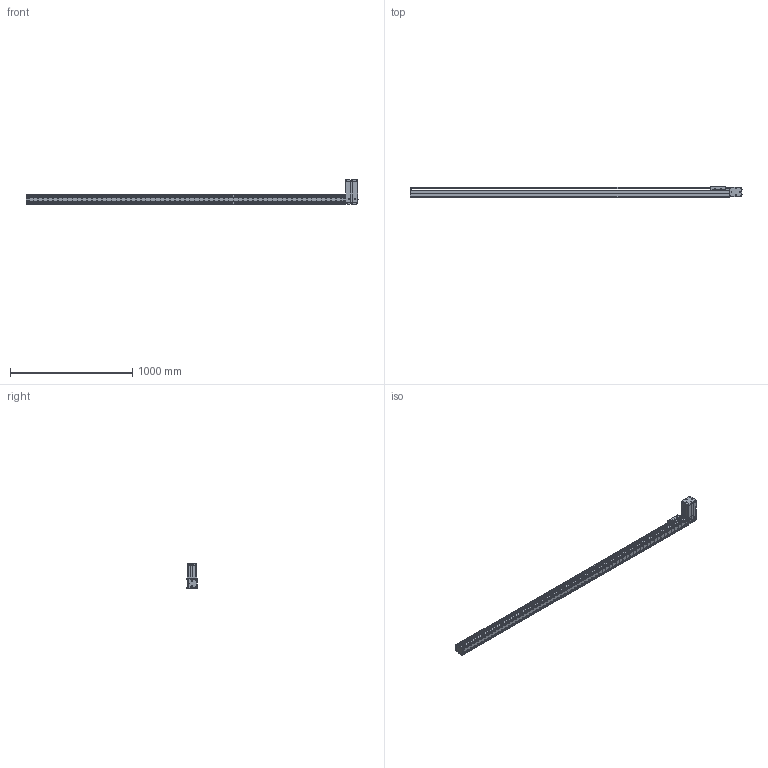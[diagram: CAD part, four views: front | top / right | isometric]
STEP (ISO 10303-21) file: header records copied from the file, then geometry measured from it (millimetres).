
FILE_DESCRIPTION((''),'2;1');
FILE_NAME('BE10_-BR-M_N-Q0_IGS_PRT','2017-06-18T',(' '),(''),'PRO/ENGINEER BY PARAMETRIC TECHNOLOGY CORPORATION, 2015030','PRO/ENGINEER BY PARAMETRIC TECHNOLOGY CORPORATION, 2015030','');
FILE_SCHEMA(('CONFIG_CONTROL_DESIGN'));
Products named in the file (1): BE10_-BR-M_N-Q0_IGS_PRT
Bounding box: 2720.8 x 85 x 200.22 mm (x, y, z)
Volume: 3477970.4 mm3; surface area: 2441951 mm2
Topology: 5 solids, 209 shells, 2520 faces, 6916 edges, 4621 vertices
Faces by surface type: cylinder 1252, plane 1105, cone 107, sphere 28, torus 25, bspline 3
Entity records: 82673 total; most frequent: CARTESIAN_POINT 16962, DIRECTION 14056, ORIENTED_EDGE 12888, EDGE_CURVE 6846, AXIS2_PLACEMENT_3D 5230, VERTEX_POINT 4617, VECTOR 3596, LINE 3596
